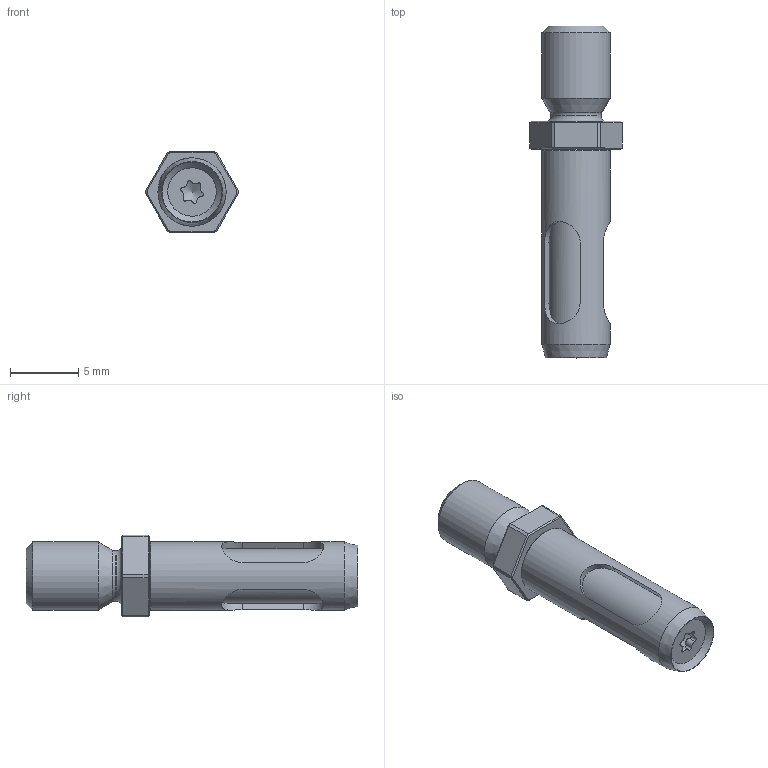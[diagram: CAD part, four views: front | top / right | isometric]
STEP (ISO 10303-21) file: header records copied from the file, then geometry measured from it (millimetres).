
FILE_DESCRIPTION(/* description */ (''),/* implementation_level */ '2;1');
FILE_NAME(/* name */ '\\dc01\daten\CAD\Standard\Daten\3D-Datenbank\GI\GIS\4 - 3D-CAD-Daten GIS 004-020\G-GIS005\G-GIS005_Rev.1.02.stp',/* time_stamp */ '2022-11-29T15:52:40+01:00',/* author */ ('ysplieth'),/* organization */ (''),/* preprocessor_version */ 'ST-DEVELOPER v17',/* originating_system */ 'Autodesk Inventor 2018',/* authorisation */ '');
FILE_SCHEMA (('AUTOMOTIVE_DESIGN { 1 0 10303 214 3 1 1 }'));
Length unit declared in the file: millimetre
Products named in the file (1): Bauteil13
Bounding box: 6.8 x 24.35 x 6 mm (x, y, z)
Volume: 373.9 mm3; surface area: 891.8 mm2
Topology: 1 solids, 3 shells, 103 faces, 268 edges, 176 vertices
Faces by surface type: cylinder 40, plane 35, cone 25, torus 3
Full cylindrical faces by diameter (mm): 1.3 x2, 1.5 x1, 1.567 x1, 2.2 x1, 2.459 x1, 2.8 x1, 3 x1, 3.7 x1, 3.9 x1, 4 x1, 5 x2
Entity records: 3811 total; most frequent: CARTESIAN_POINT 1158, ORIENTED_EDGE 530, DIRECTION 515, EDGE_CURVE 265, AXIS2_PLACEMENT_3D 207, VERTEX_POINT 176, EDGE_LOOP 117, FACE_OUTER_BOUND 103
